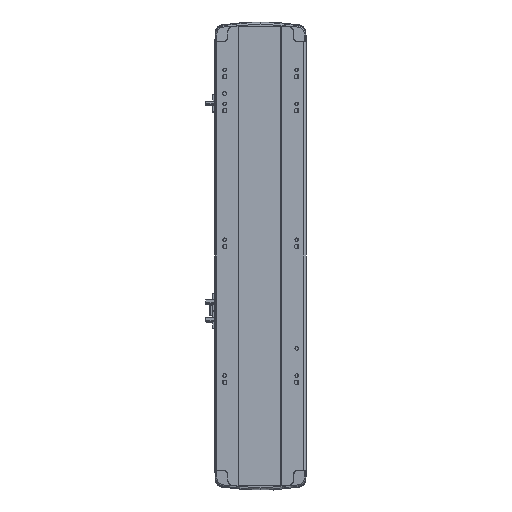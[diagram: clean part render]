
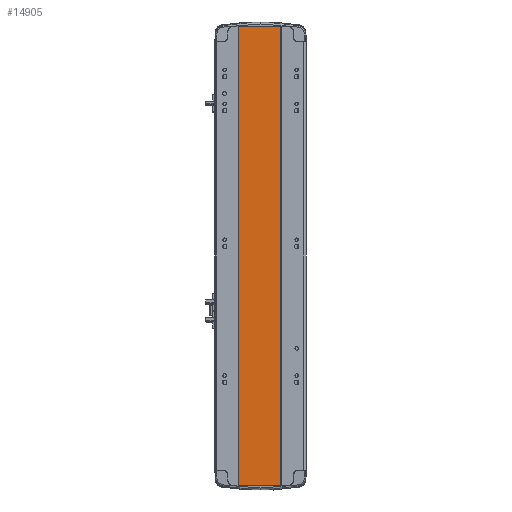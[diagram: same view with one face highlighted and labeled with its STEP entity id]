
A CAD part, front view. The second image highlights one B-rep face of the part: STEP entity #14905.
In plain terms, the highlighted planar face has unit normal (0, -1, 0).
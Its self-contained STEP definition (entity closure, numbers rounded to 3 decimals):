
#5507 = VECTOR ( 'NONE', #7894, 1000. ) ;
#7894 = DIRECTION ( 'NONE',  ( 0., 0., -1. ) ) ;
#8634 = CARTESIAN_POINT ( 'NONE',  ( -32., 1., 676. ) ) ;
#9060 = EDGE_CURVE ( 'NONE', #37536, #31878, #21717, .T. ) ;
#10151 = FACE_OUTER_BOUND ( 'NONE', #41650, .T. ) ;
#13495 = LINE ( 'NONE', #23319, #31594 ) ;
#13669 = VECTOR ( 'NONE', #29234, 1000. ) ;
#14905 = ADVANCED_FACE ( 'NONE', ( #10151 ), #15372, .F. ) ;
#15294 = VECTOR ( 'NONE', #45952, 1000. ) ;
#15357 = ORIENTED_EDGE ( 'NONE', *, *, #38350, .T. ) ;
#15372 = PLANE ( 'NONE',  #37676 ) ;
#19278 = LINE ( 'NONE', #25649, #13669 ) ;
#21227 = CARTESIAN_POINT ( 'NONE',  ( -32., 1., 676. ) ) ;
#21717 = LINE ( 'NONE', #46164, #5507 ) ;
#23319 = CARTESIAN_POINT ( 'NONE',  ( -32., 1., 676. ) ) ;
#23478 = DIRECTION ( 'NONE',  ( 1., 0., 0. ) ) ;
#23918 = CARTESIAN_POINT ( 'NONE',  ( -32., 1., 0. ) ) ;
#24091 = VERTEX_POINT ( 'NONE', #21227 ) ;
#25649 = CARTESIAN_POINT ( 'NONE',  ( -32., 1., 676. ) ) ;
#26133 = CARTESIAN_POINT ( 'NONE',  ( 30., 1., 0. ) ) ;
#27112 = ORIENTED_EDGE ( 'NONE', *, *, #30452, .F. ) ;
#29029 = ORIENTED_EDGE ( 'NONE', *, *, #9060, .F. ) ;
#29234 = DIRECTION ( 'NONE',  ( 0., 0., -1. ) ) ;
#30452 = EDGE_CURVE ( 'NONE', #24091, #37536, #13495, .T. ) ;
#31594 = VECTOR ( 'NONE', #23478, 1000. ) ;
#31878 = VERTEX_POINT ( 'NONE', #26133 ) ;
#33352 = DIRECTION ( 'NONE',  ( -1., 0., 0. ) ) ;
#36269 = EDGE_CURVE ( 'NONE', #24091, #44887, #19278, .T. ) ;
#36697 = CARTESIAN_POINT ( 'NONE',  ( 30., 1., 676. ) ) ;
#37536 = VERTEX_POINT ( 'NONE', #36697 ) ;
#37676 = AXIS2_PLACEMENT_3D ( 'NONE', #8634, #43949, #33352 ) ;
#38350 = EDGE_CURVE ( 'NONE', #44887, #31878, #43802, .T. ) ;
#41650 = EDGE_LOOP ( 'NONE', ( #15357, #29029, #27112, #41662 ) ) ;
#41662 = ORIENTED_EDGE ( 'NONE', *, *, #36269, .T. ) ;
#42376 = CARTESIAN_POINT ( 'NONE',  ( -32., 1., 0. ) ) ;
#43802 = LINE ( 'NONE', #42376, #15294 ) ;
#43949 = DIRECTION ( 'NONE',  ( 0., 1., 0. ) ) ;
#44887 = VERTEX_POINT ( 'NONE', #23918 ) ;
#45952 = DIRECTION ( 'NONE',  ( 1., 0., 0. ) ) ;
#46164 = CARTESIAN_POINT ( 'NONE',  ( 30., 1., 676. ) ) ;
